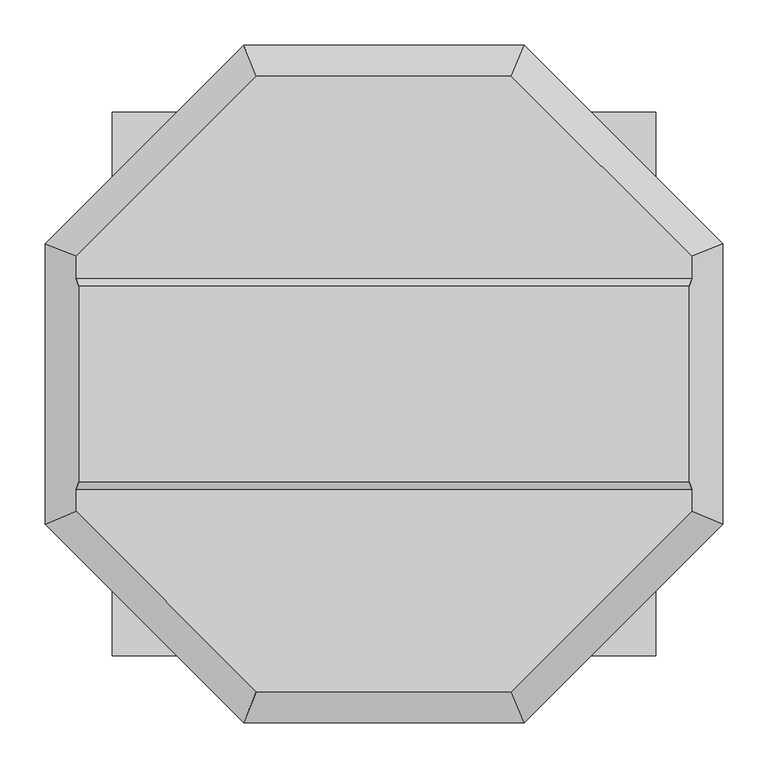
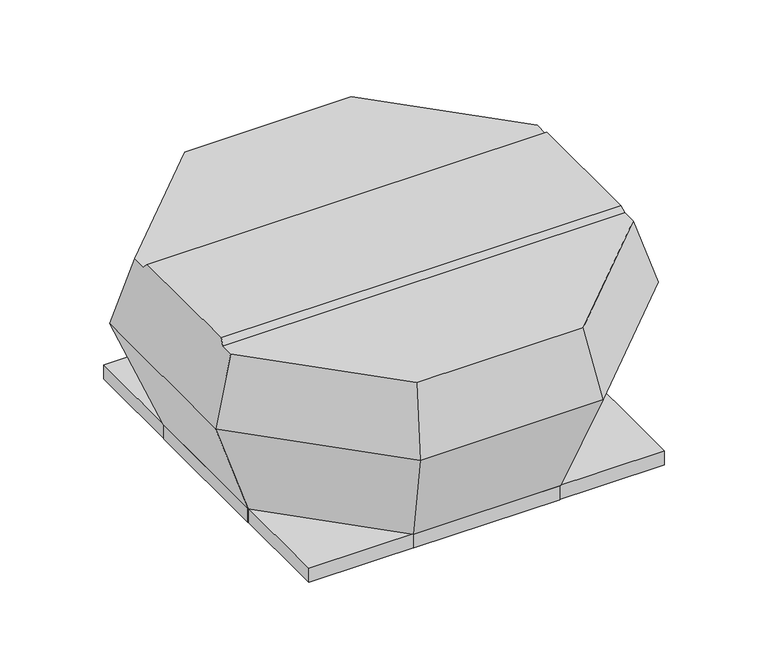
"""IFC4 building model written with IfcOpenShell, lengths in millimetres: unitary equipment geometry, VE-Wentylator-ParaForma-Harmann-VIVER_EC-Wywiewny : 4-400/4400EC."""

from ifc_helpers import new_model, si_unit, origin, place, context, project, spatial, faceted_brep, source, transform, mapped, element, save


def unitary_equipment_924398ab(model_context):
    return source(origin(), model_context, "Body", "Brep", [
        faceted_brep([(336.2765997, -107.5, 309.5), (336.2765997, 107.5, 309.5), (-336.2765997, 107.5, 309.5), (-336.2765997, -107.5, 309.5), (338.8348735, 116.0, 301.0), (-338.8348735, 116.0, 301.0), (338.8348735, -116.0, 301.0), (-338.8348735, -116.0, 301.0), (140.35, -338.8348735, 301.0), (338.8348735, -140.35, 301.0), (-338.8348735, -140.35, 301.0), (-140.35, -338.8348735, 301.0), (338.8348735, 140.35, 301.0), (140.35, 338.8348735, 301.0), (-140.35, 338.8348735, 301.0), (-338.8348735, 140.35, 301.0), (154.4, -372.754574, 188.3), (372.754574, -154.4, 188.3), (372.754574, 154.4, 188.3), (154.4, 372.754574, 188.3), (-154.4, 372.754574, 188.3), (-372.754574, 154.4, 188.3), (-372.754574, -154.4, 188.3), (-154.4, -372.754574, 188.3), (124.3, -300.0867458, 1.5), (-124.3, -300.0867458, 1.5), (-300.0867458, -124.3, 1.5), (-300.0867458, 124.3, 1.5), (-124.3, 300.0867458, 1.5), (124.3, 300.0867458, 1.5), (300.0867458, 124.3, 1.5), (300.0867458, -124.3, 1.5)], [[[0, 1, 2, 3]], [[1, 4, 5, 2]], [[6, 0, 3, 7]], [[8, 9, 6, 7, 10, 11]], [[12, 13, 14, 15, 5, 4]], [[9, 8, 16, 17]], [[9, 17, 18, 12, 4, 1, 0, 6]], [[13, 12, 18, 19]], [[14, 13, 19, 20]], [[15, 14, 20, 21]], [[15, 21, 22, 10, 7, 3, 2, 5]], [[11, 10, 22, 23]], [[8, 11, 23, 16]], [[24, 25, 26, 27, 28, 29, 30, 31]], [[24, 31, 17, 16]], [[31, 30, 18, 17]], [[30, 29, 19, 18]], [[29, 28, 20, 19]], [[28, 27, 21, 20]], [[27, 26, 22, 21]], [[26, 25, 23, 22]], [[25, 24, 16, 23]]]),
        faceted_brep([(297.5, 297.5, -23.5), (297.5, 297.5, 0.0), (-297.5, 297.5, 0.0), (-297.5, 297.5, -23.5), (299.0, 299.0, 1.5), (299.0, 299.0, -23.5), (-299.0, 299.0, -23.5), (-299.0, 299.0, 1.5), (-297.5, -297.5, 0.0), (-297.5, -297.5, -23.5), (-299.0, -299.0, -23.5), (-299.0, -299.0, 1.5), (297.5, -297.5, 0.0), (297.5, -297.5, -23.5), (299.0, -299.0, -23.5), (299.0, -299.0, 1.5)], [[[0, 1, 2, 3]], [[4, 5, 6, 7]], [[3, 2, 8, 9]], [[7, 6, 10, 11]], [[9, 8, 12, 13]], [[11, 10, 14, 15]], [[13, 12, 1, 0]], [[5, 14, 10, 6], [3, 9, 13, 0]], [[15, 14, 5, 4]], [[7, 11, 15, 4]], [[1, 12, 8, 2]]]),
        faceted_brep([(-299.0, -122.7, -23.5), (-300.0, -122.7, -23.5), (-300.0, 122.7, -23.5), (-299.0, 122.7, -23.5), (-299.0, -122.7, 1.5), (-299.0, 122.7, 1.5), (-300.0, 122.7, 1.5), (-300.0, -122.7, 1.5)], [[[0, 1, 2, 3]], [[4, 5, 6, 7]], [[1, 0, 4, 7]], [[2, 1, 7, 6]], [[3, 2, 6, 5]], [[0, 3, 5, 4]]]),
        faceted_brep([(300.0, -122.7, -23.5), (299.0, -122.7, -23.5), (299.0, 122.7, -23.5), (300.0, 122.7, -23.5), (300.0, 122.7, 1.5), (299.0, 122.7, 1.5), (299.0, 5.0, 1.5), (299.0, -5.0, 1.5), (299.0, -122.7, 1.5), (300.0, -122.7, 1.5), (300.0, -5.0, 1.5), (300.0, 5.0, 1.5)], [[[0, 1, 2, 3]], [[4, 5, 6, 7, 8, 9, 10, 11]], [[1, 0, 9, 8]], [[2, 1, 8, 7, 6, 5]], [[3, 2, 5, 4]], [[0, 3, 4, 11, 10, 9]]]),
        faceted_brep([(122.7, 299.0, -23.5), (-122.7, 299.0, -23.5), (-122.7, 300.0, -23.5), (122.7, 300.0, -23.5), (122.7, 299.0, 1.5), (122.7, 300.0, 1.5), (-122.7, 300.0, 1.5), (-122.7, 299.0, 1.5)], [[[0, 1, 2, 3]], [[4, 5, 6, 7]], [[1, 0, 4, 7]], [[2, 1, 7, 6]], [[3, 2, 6, 5]], [[0, 3, 5, 4]]]),
        faceted_brep([(122.7, -300.0, -23.5), (-122.7, -300.0, -23.5), (-122.7, -299.0, -23.5), (122.7, -299.0, -23.5), (122.7, -300.0, 1.5), (122.7, -299.0, 1.5), (-122.7, -299.0, 1.5), (-122.7, -300.0, 1.5)], [[[0, 1, 2, 3]], [[4, 5, 6, 7]], [[1, 0, 4, 7]], [[2, 1, 7, 6]], [[3, 2, 6, 5]], [[0, 3, 5, 4]]]),
    ])


if __name__ == "__main__":
    model = new_model("IFC4")
    model_context = context("Model", 3, world=origin())
    ifc_project = project(units=[si_unit("LENGTHUNIT", "METRE", prefix="MILLI")], contexts=[model_context])
    site = spatial("IfcSite", under=ifc_project)
    building = spatial("IfcBuilding", under=site)
    placement = place(None, origin())
    unitary_equipment_shape = unitary_equipment_924398ab(model_context)
    element("IfcUnitaryEquipment", 1, ObjectType="VE-Wentylator-ParaForma-Harmann-VIVER_EC-Wywiewny : 4-400/4400EC", at=placement, inside=building, context=model_context, shape_type="MappedRepresentation", body=[
        mapped(unitary_equipment_shape, transform((0.0, 0.0, 0.0), x_axis=(1.0, 0.0, 0.0), y_axis=(0.0, 1.0, 0.0), z_axis=(0.0, 0.0, 1.0))),
    ])
    save(model, "model.ifc")
